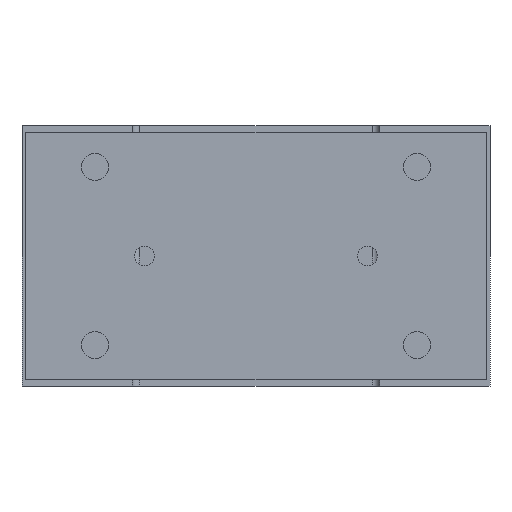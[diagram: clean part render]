
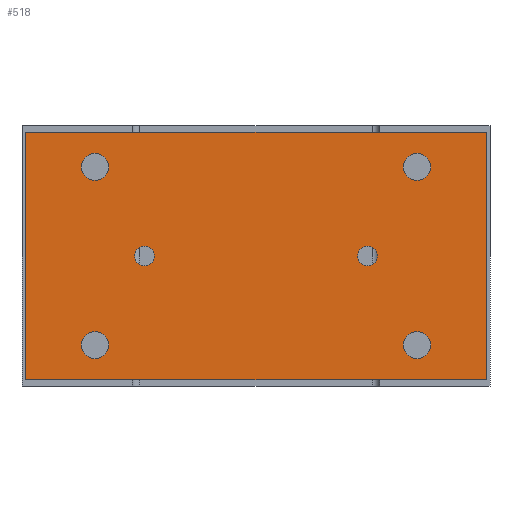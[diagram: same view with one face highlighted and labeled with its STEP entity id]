
A CAD part, left-side view. The second image highlights one B-rep face of the part: STEP entity #518.
In plain terms, the highlighted planar face has unit normal (-1, 0, 0).
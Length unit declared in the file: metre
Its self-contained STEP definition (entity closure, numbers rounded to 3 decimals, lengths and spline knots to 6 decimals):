
#518 = ADVANCED_FACE( '', ( #1190, #1191, #1192, #1193, #1194, #1195, #1196 ), #1197, .T. );
#1190 = FACE_BOUND( '', #1994, .T. );
#1191 = FACE_BOUND( '', #1995, .T. );
#1192 = FACE_BOUND( '', #1996, .T. );
#1193 = FACE_BOUND( '', #1997, .T. );
#1194 = FACE_BOUND( '', #1998, .T. );
#1195 = FACE_BOUND( '', #1999, .T. );
#1196 = FACE_OUTER_BOUND( '', #2000, .T. );
#1197 = PLANE( '', #2001 );
#1994 = EDGE_LOOP( '', ( #3285 ) );
#1995 = EDGE_LOOP( '', ( #3286 ) );
#1996 = EDGE_LOOP( '', ( #3287 ) );
#1997 = EDGE_LOOP( '', ( #3288 ) );
#1998 = EDGE_LOOP( '', ( #3289 ) );
#1999 = EDGE_LOOP( '', ( #3290 ) );
#2000 = EDGE_LOOP( '', ( #3291, #3292, #3293, #3294 ) );
#2001 = AXIS2_PLACEMENT_3D( '', #3295, #3296, #3297 );
#3285 = ORIENTED_EDGE( '', *, *, #4166, .F. );
#3286 = ORIENTED_EDGE( '', *, *, #4249, .F. );
#3287 = ORIENTED_EDGE( '', *, *, #4250, .F. );
#3288 = ORIENTED_EDGE( '', *, *, #3883, .F. );
#3289 = ORIENTED_EDGE( '', *, *, #4251, .F. );
#3290 = ORIENTED_EDGE( '', *, *, #4024, .T. );
#3291 = ORIENTED_EDGE( '', *, *, #4252, .T. );
#3292 = ORIENTED_EDGE( '', *, *, #4253, .T. );
#3293 = ORIENTED_EDGE( '', *, *, #3850, .T. );
#3294 = ORIENTED_EDGE( '', *, *, #4254, .T. );
#3295 = CARTESIAN_POINT( '', ( -0.135, 0.093, -0.1025 ) );
#3296 = DIRECTION( '', ( -1., 0., 0. ) );
#3297 = DIRECTION( '', ( 0., 0., -1. ) );
#3850 = EDGE_CURVE( '', #4438, #4436, #4439, .T. );
#3883 = EDGE_CURVE( '', #4493, #4493, #4494, .T. );
#4024 = EDGE_CURVE( '', #4730, #4730, #4731, .T. );
#4166 = EDGE_CURVE( '', #4935, #4935, #4936, .T. );
#4249 = EDGE_CURVE( '', #5050, #5050, #5051, .T. );
#4250 = EDGE_CURVE( '', #5052, #5052, #5053, .T. );
#4251 = EDGE_CURVE( '', #5054, #5054, #5055, .T. );
#4252 = EDGE_CURVE( '', #5056, #5057, #5058, .T. );
#4253 = EDGE_CURVE( '', #5057, #4438, #5059, .T. );
#4254 = EDGE_CURVE( '', #4436, #5056, #5060, .T. );
#4436 = VERTEX_POINT( '', #5287 );
#4438 = VERTEX_POINT( '', #5290 );
#4439 = LINE( '', #5291, #5292 );
#4493 = VERTEX_POINT( '', #5401 );
#4494 = CIRCLE( '', #5402, 0.0055 );
#4730 = VERTEX_POINT( '', #5779 );
#4731 = CIRCLE( '', #5780, 0.004 );
#4935 = VERTEX_POINT( '', #6088 );
#4936 = CIRCLE( '', #6089, 0.0055 );
#5050 = VERTEX_POINT( '', #6288 );
#5051 = CIRCLE( '', #6289, 0.0055 );
#5052 = VERTEX_POINT( '', #6290 );
#5053 = CIRCLE( '', #6291, 0.0055 );
#5054 = VERTEX_POINT( '', #6292 );
#5055 = CIRCLE( '', #6293, 0.004 );
#5056 = VERTEX_POINT( '', #6294 );
#5057 = VERTEX_POINT( '', #6295 );
#5058 = LINE( '', #6296, #6297 );
#5059 = LINE( '', #6298, #6299 );
#5060 = LINE( '', #6300, #6301 );
#5287 = CARTESIAN_POINT( '', ( -0.135, -0.093, -0.0025 ) );
#5290 = CARTESIAN_POINT( '', ( -0.135, -0.093, -0.1025 ) );
#5291 = CARTESIAN_POINT( '', ( -0.135, -0.093, -0.1025 ) );
#5292 = VECTOR( '', #6536, 1. );
#5401 = CARTESIAN_POINT( '', ( -0.135, -0.0705, -0.0885 ) );
#5402 = AXIS2_PLACEMENT_3D( '', #6565, #6566, #6567 );
#5779 = CARTESIAN_POINT( '', ( -0.135, -0.041, -0.0525 ) );
#5780 = AXIS2_PLACEMENT_3D( '', #6736, #6737, #6738 );
#6088 = CARTESIAN_POINT( '', ( -0.135, 0.0595, -0.0165 ) );
#6089 = AXIS2_PLACEMENT_3D( '', #6915, #6916, #6917 );
#6288 = CARTESIAN_POINT( '', ( -0.135, -0.0705, -0.0165 ) );
#6289 = AXIS2_PLACEMENT_3D( '', #7006, #7007, #7008 );
#6290 = CARTESIAN_POINT( '', ( -0.135, 0.0595, -0.0885 ) );
#6291 = AXIS2_PLACEMENT_3D( '', #7009, #7010, #7011 );
#6292 = CARTESIAN_POINT( '', ( -0.135, 0.041, -0.0525 ) );
#6293 = AXIS2_PLACEMENT_3D( '', #7012, #7013, #7014 );
#6294 = CARTESIAN_POINT( '', ( -0.135, 0.093, -0.0025 ) );
#6295 = CARTESIAN_POINT( '', ( -0.135, 0.093, -0.1025 ) );
#6296 = CARTESIAN_POINT( '', ( -0.135, 0.093, -0.0025 ) );
#6297 = VECTOR( '', #7015, 1. );
#6298 = CARTESIAN_POINT( '', ( -0.135, 0.093, -0.1025 ) );
#6299 = VECTOR( '', #7016, 1. );
#6300 = CARTESIAN_POINT( '', ( -0.135, -0.093, -0.0025 ) );
#6301 = VECTOR( '', #7017, 1. );
#6536 = DIRECTION( '', ( 0., 0., 1. ) );
#6565 = CARTESIAN_POINT( '', ( -0.135, -0.065, -0.0885 ) );
#6566 = DIRECTION( '', ( -1., 0., 0. ) );
#6567 = DIRECTION( '', ( 0., -1., 0. ) );
#6736 = CARTESIAN_POINT( '', ( -0.135, -0.045, -0.0525 ) );
#6737 = DIRECTION( '', ( 1., 0., 0. ) );
#6738 = DIRECTION( '', ( 0., 1., 0. ) );
#6915 = CARTESIAN_POINT( '', ( -0.135, 0.065, -0.0165 ) );
#6916 = DIRECTION( '', ( -1., 0., 0. ) );
#6917 = DIRECTION( '', ( 0., -1., 0. ) );
#7006 = CARTESIAN_POINT( '', ( -0.135, -0.065, -0.0165 ) );
#7007 = DIRECTION( '', ( -1., 0., 0. ) );
#7008 = DIRECTION( '', ( 0., -1., 0. ) );
#7009 = CARTESIAN_POINT( '', ( -0.135, 0.065, -0.0885 ) );
#7010 = DIRECTION( '', ( -1., 0., 0. ) );
#7011 = DIRECTION( '', ( 0., -1., 0. ) );
#7012 = CARTESIAN_POINT( '', ( -0.135, 0.045, -0.0525 ) );
#7013 = DIRECTION( '', ( -1., 0., 0. ) );
#7014 = DIRECTION( '', ( 0., -1., 0. ) );
#7015 = DIRECTION( '', ( 0., 0., -1. ) );
#7016 = DIRECTION( '', ( 0., -1., 0. ) );
#7017 = DIRECTION( '', ( 0., 1., 0. ) );
